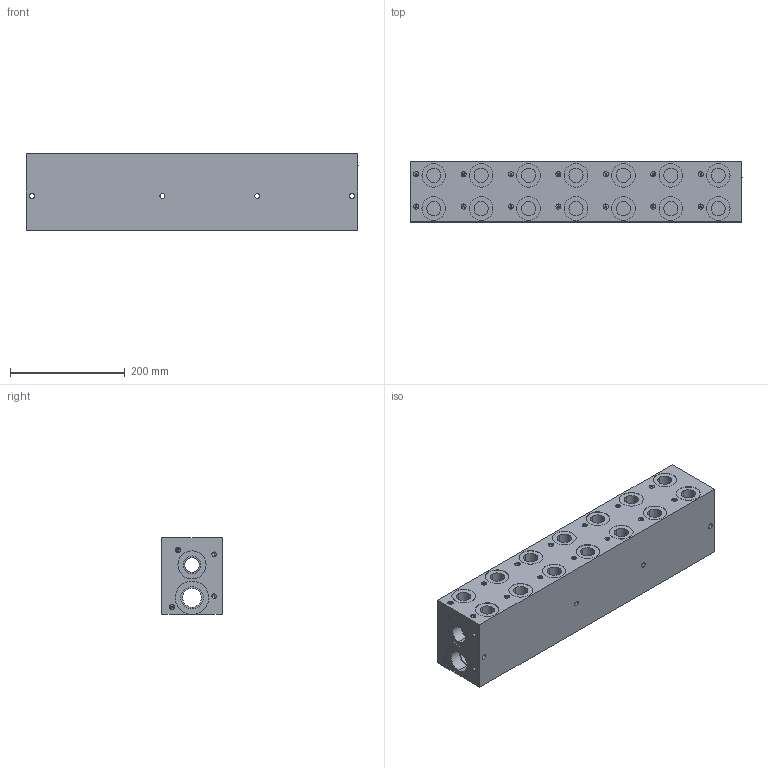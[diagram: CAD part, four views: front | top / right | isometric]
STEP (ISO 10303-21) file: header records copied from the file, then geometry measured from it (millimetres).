
FILE_DESCRIPTION (( 'STEP AP203' ), '1' );
FILE_NAME ('BM-AHP05S3-07-1_Z.STEP', '2015-01-06T16:01:18', ( '' ), ( '' ), 'SwSTEP 2.0', 'SolidWorks 2014', '' );
FILE_SCHEMA (( 'CONFIG_CONTROL_DESIGN' ));
Length unit declared in the file: inch
Products named in the file (1): BM-AHP05S3-07-1_Z
Bounding box: 577.85 x 104.65 x 133.35 mm (x, y, z)
Volume: 7050973.3 mm3; surface area: 459524.4 mm2
Topology: 1 solids, 1 shells, 859 faces, 2058 edges, 1272 vertices
Faces by surface type: plane 353, cylinder 303, cone 120, bspline 83
Entity records: 28791 total; most frequent: CARTESIAN_POINT 9361, DIRECTION 3932, ORIENTED_EDGE 3876, EDGE_CURVE 1938, AXIS2_PLACEMENT_3D 1383, VERTEX_POINT 1272, VECTOR 1166, LINE 1166
